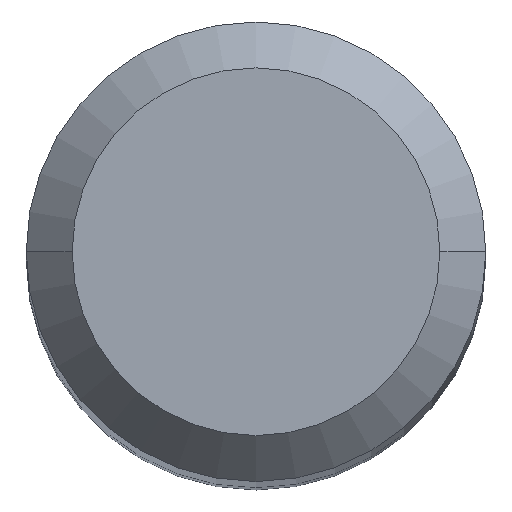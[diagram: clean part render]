
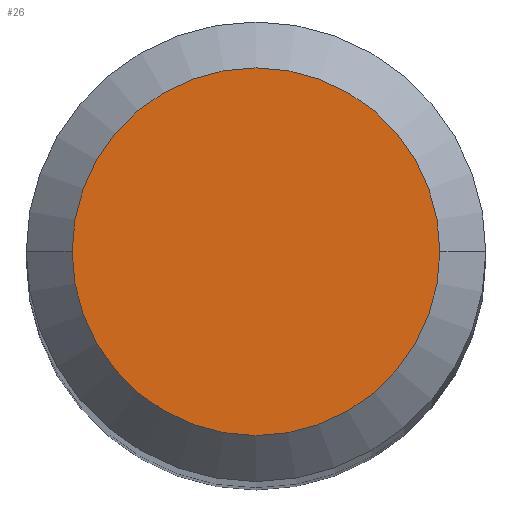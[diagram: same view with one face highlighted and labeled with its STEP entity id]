
A CAD part, top view. The second image highlights one B-rep face of the part: STEP entity #26.
In plain terms, the highlighted planar face has unit normal (0, 0, 1).
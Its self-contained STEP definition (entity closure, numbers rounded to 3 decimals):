
#1 = EDGE_CURVE ( 'NONE', #105, #374, #278, .T. ) ;
#16 = CARTESIAN_POINT ( 'NONE',  ( -2.6, 0., 0. ) ) ;
#26 = ADVANCED_FACE ( 'NONE', ( #159 ), #250, .T. ) ;
#34 = CARTESIAN_POINT ( 'NONE',  ( 0., 0., 0. ) ) ;
#48 = DIRECTION ( 'NONE',  ( -1., 0., 0. ) ) ;
#71 = DIRECTION ( 'NONE',  ( -1., 0., 0. ) ) ;
#80 = AXIS2_PLACEMENT_3D ( 'NONE', #346, #325, #48 ) ;
#101 = DIRECTION ( 'NONE',  ( 0., 0., 1. ) ) ;
#105 = VERTEX_POINT ( 'NONE', #16 ) ;
#133 = EDGE_CURVE ( 'NONE', #374, #105, #144, .T. ) ;
#144 = CIRCLE ( 'NONE', #80, 2.6 ) ;
#152 = AXIS2_PLACEMENT_3D ( 'NONE', #255, #101, #228 ) ;
#154 = CARTESIAN_POINT ( 'NONE',  ( 2.6, 0., 0. ) ) ;
#159 = FACE_OUTER_BOUND ( 'NONE', #251, .T. ) ;
#227 = ORIENTED_EDGE ( 'NONE', *, *, #1, .F. ) ;
#228 = DIRECTION ( 'NONE',  ( 1., 0., 0. ) ) ;
#250 = PLANE ( 'NONE',  #152 ) ;
#251 = EDGE_LOOP ( 'NONE', ( #227, #380 ) ) ;
#255 = CARTESIAN_POINT ( 'NONE',  ( 0., 2.6, 0. ) ) ;
#278 = CIRCLE ( 'NONE', #364, 2.6 ) ;
#279 = DIRECTION ( 'NONE',  ( 0., 0., -1. ) ) ;
#325 = DIRECTION ( 'NONE',  ( 0., 0., -1. ) ) ;
#346 = CARTESIAN_POINT ( 'NONE',  ( 0., 0., 0. ) ) ;
#364 = AXIS2_PLACEMENT_3D ( 'NONE', #34, #279, #71 ) ;
#374 = VERTEX_POINT ( 'NONE', #154 ) ;
#380 = ORIENTED_EDGE ( 'NONE', *, *, #133, .F. ) ;
